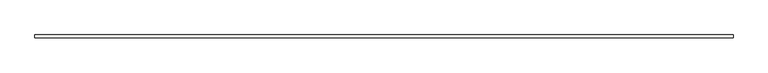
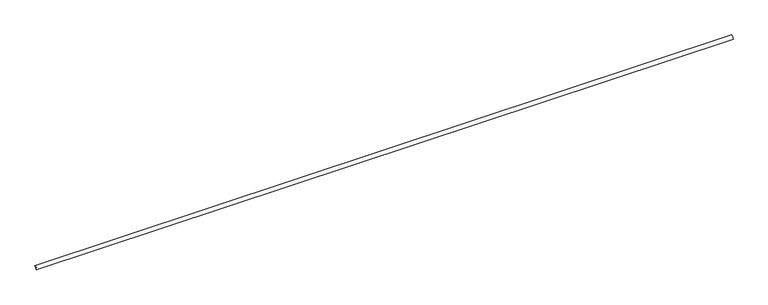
"""IFC4 building model written with IfcOpenShell, lengths in millimetres: slab geometry, ROSA GRES_138 : Pieza 138_Aqua_Marino_Anti-Slip."""

from ifc_helpers import new_model, si_unit, point, frame, frame_2d, origin, origin_2d, place, context, project, spatial, polyline, circle_curve, trimmed, segment, composite_curve, outline, extrude, source, transform, mapped, element, save


def slab_34b9a9c7(model_context):
    return source(origin(), model_context, "Body", "SweptSolid", [
        extrude(outline(composite_curve([segment(polyline([(0.0, 40.0), (0.0, 30.0265886)]), True, "CONTINUOUS"), segment(trimmed(circle_curve(frame_2d((-0.0044453, 0.0044453)), 30.0221435), [point((0.0, 30.0265886))], [point((-30.0265886, 0.0))], True, "CARTESIAN"), True, "CONTINUOUS"), segment(polyline([(-30.0265886, 0.0), (-40.0, 0.0)]), True, "CONTINUOUS"), segment(trimmed(circle_curve(origin_2d(), 40.0), [point((-40.0, 0.0))], [point((0.0, 40.0))], False, "CARTESIAN"), True, "CONTINUOUS")], self_intersect=False)), frame((0.0, 0.0, 0.0), z_axis=(1.0, 0.0, 0.0), x_axis=(0.0, 1.0, 0.0)), (0.0, 0.0, 1.0), 10220.0),
    ])


if __name__ == "__main__":
    model = new_model("IFC4")
    model_context = context("Model", 3, world=origin())
    ifc_project = project(units=[si_unit("LENGTHUNIT", "METRE", prefix="MILLI")], contexts=[model_context])
    site = spatial("IfcSite", under=ifc_project)
    building = spatial("IfcBuilding", under=site)
    placement = place(None, origin())
    slab_shape = slab_34b9a9c7(model_context)
    element("IfcSlab", 1, ObjectType="ROSA GRES_138 : Pieza 138_Aqua_Marino_Anti-Slip", at=placement, inside=building, context=model_context, shape_type="MappedRepresentation", body=[
        mapped(slab_shape, transform((0.0, 0.0, 0.0), x_axis=(1.0, 0.0, 0.0), y_axis=(0.0, 1.0, 0.0), z_axis=(0.0, 0.0, 1.0))),
    ])
    save(model, "model.ifc")
